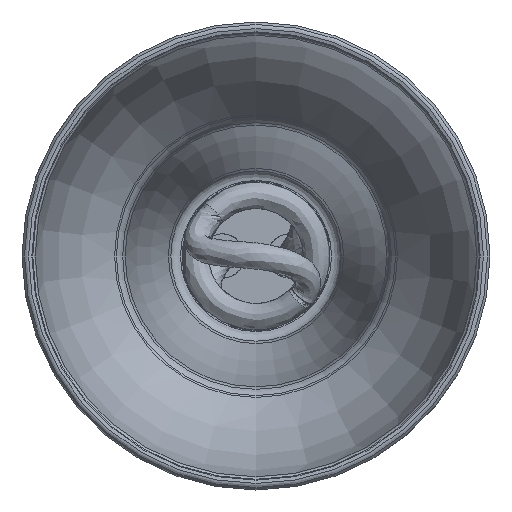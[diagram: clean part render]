
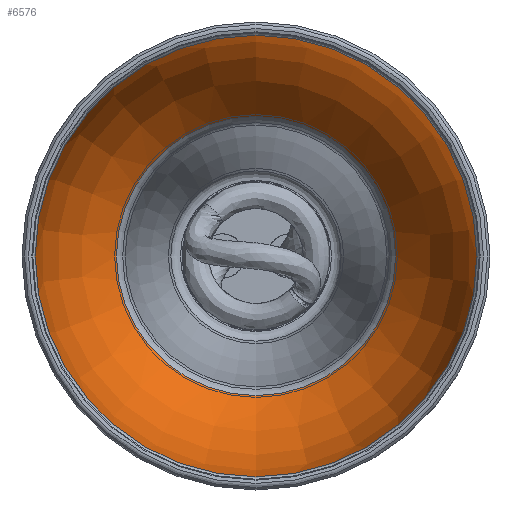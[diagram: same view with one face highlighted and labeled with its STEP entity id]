
A CAD part, front view. The second image highlights one B-rep face of the part: STEP entity #6576.
In plain terms, the highlighted toroidal (fillet/blend) face has major radius 26.633 mm and minor radius 93.206 mm.
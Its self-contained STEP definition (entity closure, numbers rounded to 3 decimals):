
#275 = EDGE_LOOP ( 'NONE', ( #10244 ) ) ;
#333 = ORIENTED_EDGE ( 'NONE', *, *, #1103, .T. ) ;
#1103 = EDGE_CURVE ( 'NONE', #8793, #8793, #5407, .T. ) ;
#3359 = EDGE_CURVE ( 'NONE', #10312, #10312, #10298, .T. ) ;
#3444 = FACE_OUTER_BOUND ( 'NONE', #275, .T. ) ;
#3497 = CARTESIAN_POINT ( 'NONE',  ( 0.285, -108.536, 8.367 ) ) ;
#3829 = CARTESIAN_POINT ( 'NONE',  ( 0.285, -104.857, 8.367 ) ) ;
#4089 = CARTESIAN_POINT ( 'NONE',  ( 0.285, -45.518, -33.672 ) ) ;
#4384 = EDGE_LOOP ( 'NONE', ( #333 ) ) ;
#4494 = CARTESIAN_POINT ( 'NONE',  ( 0.285, -45.518, 8.367 ) ) ;
#4739 = DIRECTION ( 'NONE',  ( 0., 0., -1. ) ) ;
#4750 = AXIS2_PLACEMENT_3D ( 'NONE', #3829, #10087, #4739 ) ;
#5399 = DIRECTION ( 'NONE',  ( 0., 0., -1. ) ) ;
#5407 = CIRCLE ( 'NONE', #4750, 66.5 ) ;
#6576 = ADVANCED_FACE ( 'Defeatured_3_11', ( #10308, #3444 ), #10584, .F. ) ;
#8793 = VERTEX_POINT ( 'NONE', #9426 ) ;
#8956 = AXIS2_PLACEMENT_3D ( 'NONE', #3497, #10621, #9761 ) ;
#9121 = AXIS2_PLACEMENT_3D ( 'NONE', #4494, #10757, #5399 ) ;
#9426 = CARTESIAN_POINT ( 'NONE',  ( 0.285, -104.857, -58.133 ) ) ;
#9761 = DIRECTION ( 'NONE',  ( 0., 0., -1. ) ) ;
#10087 = DIRECTION ( 'NONE',  ( 0., -1., 0. ) ) ;
#10244 = ORIENTED_EDGE ( 'NONE', *, *, #3359, .F. ) ;
#10298 = CIRCLE ( 'NONE', #9121, 42.04 ) ;
#10308 = FACE_OUTER_BOUND ( 'NONE', #4384, .T. ) ;
#10312 = VERTEX_POINT ( 'NONE', #4089 ) ;
#10584 = TOROIDAL_SURFACE ( 'NONE', #8956, -26.633, 93.206 ) ;
#10621 = DIRECTION ( 'NONE',  ( 0., -1., 0. ) ) ;
#10757 = DIRECTION ( 'NONE',  ( 0., -1., 0. ) ) ;
